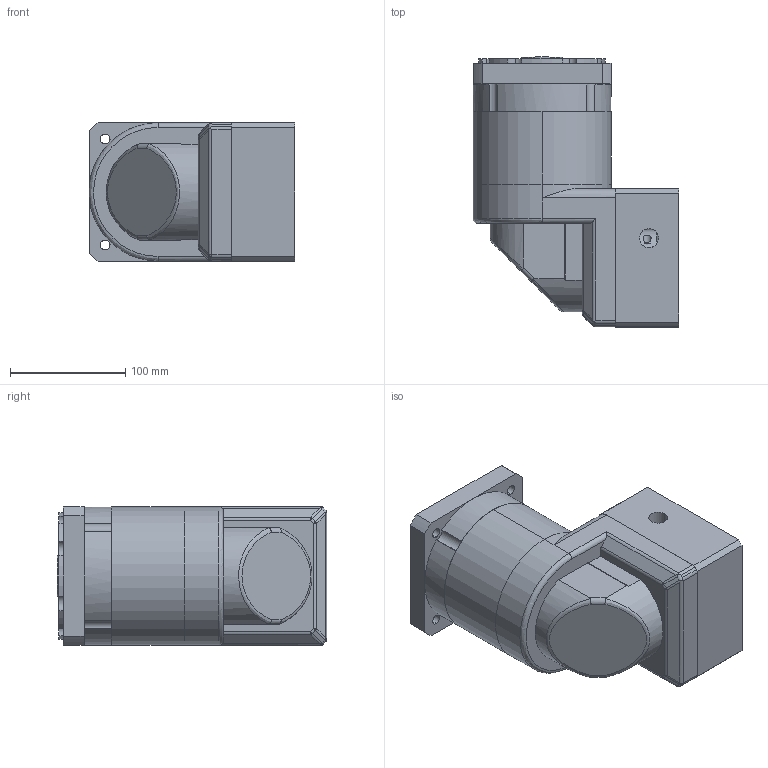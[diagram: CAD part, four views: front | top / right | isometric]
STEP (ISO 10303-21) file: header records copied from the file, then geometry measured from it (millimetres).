
FILE_DESCRIPTION (( 'STEP AP203' ), '1' );
FILE_NAME ('PVBF120-L2-22-110-145粣旮70.STEP', '2026-08-10T02:40:13', ( 'Windows User' ), ( 'P R C' ), 'SwSTEP 2.0', 'SolidWorks 2016', '' );
FILE_SCHEMA (( 'CONFIG_CONTROL_DESIGN' ));
Length unit declared in the file: millimetre
Products named in the file (8): PVBF120 內齿圈-优化_二级内齿圈; PVBF120 奻屳唳-謂怀堤-20-B6; PVBF120-蟀諉啣-LR74; PVBF120-薊粣ん-梓袧; 螺釘範本 M8x20; 粣創-3207A 35x72x27_2; PVBF120-L2-22-110-145粣旮70; PVBF120-眊极陔
Assembly tree (7 placements, depth 2):
  PVBF120-L2-22-110-145粣旮70
    PVBF120-眊极陔
    PVBF120 內齿圈-优化_二级内齿圈
    PVBF120 奻屳唳-謂怀堤-20-B6
    PVBF120-蟀諉啣-LR74
    PVBF120-薊粣ん-梓袧
    螺釘範本 M8x20
    粣創-3207A 35x72x27_2
Bounding box: 179 x 234.5 x 120 mm (x, y, z)
Volume: 2779552.1 mm3; surface area: 323219.1 mm2
Topology: 7 solids, 15 shells, 1349 faces, 3670 edges, 2411 vertices
Faces by surface type: plane 753, bspline 324, cylinder 248, cone 24
Entity records: 54505 total; most frequent: CARTESIAN_POINT 21500, ORIENTED_EDGE 7300, DIRECTION 5673, EDGE_CURVE 3650, VERTEX_POINT 2411, LINE 2199, VECTOR 2199, AXIS2_PLACEMENT_3D 1737
